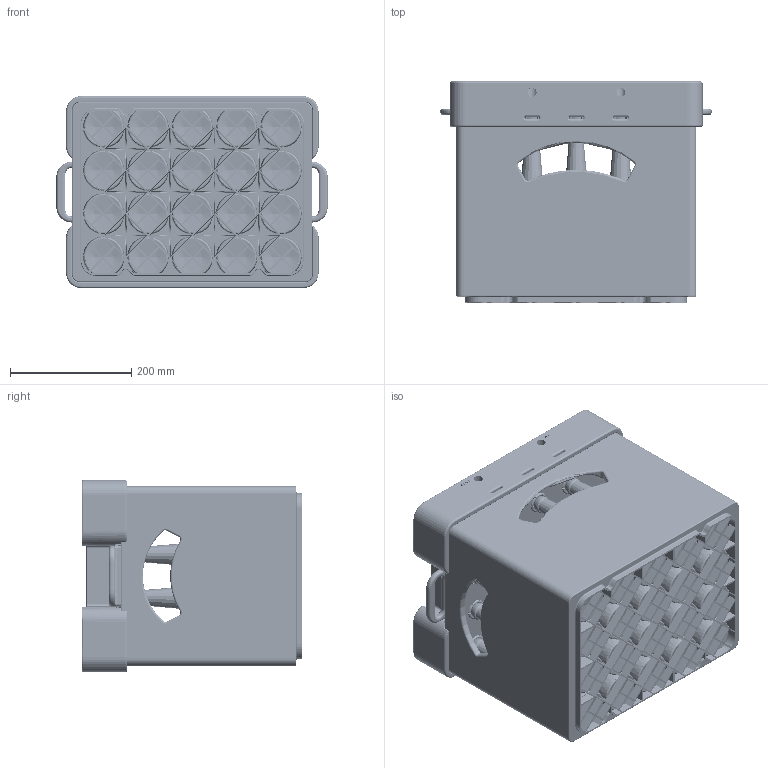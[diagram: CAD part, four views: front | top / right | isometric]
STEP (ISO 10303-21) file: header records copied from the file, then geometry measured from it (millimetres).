
FILE_DESCRIPTION (( 'STEP AP203' ), '1' );
FILE_NAME ('Zapfanlage_11_03_2013.STEP', '2013-03-11T20:26:30', ( '' ), ( '' ), 'SwSTEP 2.0', 'SolidWorks 2012', '' );
FILE_SCHEMA (( 'CONFIG_CONTROL_DESIGN' ));
Products named in the file (14): Zapfanlage_11_03_2013; U_Einsatz; din_7965_m8; Oberteil; Dichtungshülse; O-Ring 27-2_gedehnt; Spannsegment; Mittelteil; Rastplatte; Flasche gefüllt; Bier; LongneckFlasche_AK; Kiste
Assembly tree (68 placements, depth 3):
  Zapfanlage_11_03_2013
    Kiste
    Flasche gefüllt  x23
      LongneckFlasche_AK
      Bier
    Rastplatte
    Mittelteil
    Dichtungshülse  x23
      Dichtungshülse
      Spannsegment
      O-Ring 27-2_gedehnt
    Oberteil
    din_7965_m8  x4
    U_Einsatz  x4
Bounding box: 447 x 364 x 316.5 mm (x, y, z)
Volume: 27309703.4 mm3; surface area: 5752565.3 mm2
Topology: 289 solids, 289 shells, 20248 faces, 48095 edges, 27568 vertices
Faces by surface type: bspline 8105, cylinder 4404, torus 3503, plane 2672, sphere 905, cone 659
Full cylindrical faces by diameter (mm): 2 x138, 6.647 x4, 8.5 x4, 10 x27, 12.5 x12, 13 x4, 15 x2, 16 x23, 17 x46, 18 x23, 18.5 x22, 20 x23, 22 x23, 23.1 x23, 26.5 x89, 60.997 x46, 66.997 x23
Entity records: 157909 total; most frequent: CARTESIAN_POINT 69934, ORIENTED_EDGE 18954, DIRECTION 16368, EDGE_CURVE 9477, AXIS2_PLACEMENT_3D 5975, VERTEX_POINT 5921, LINE 4418, VECTOR 4418
